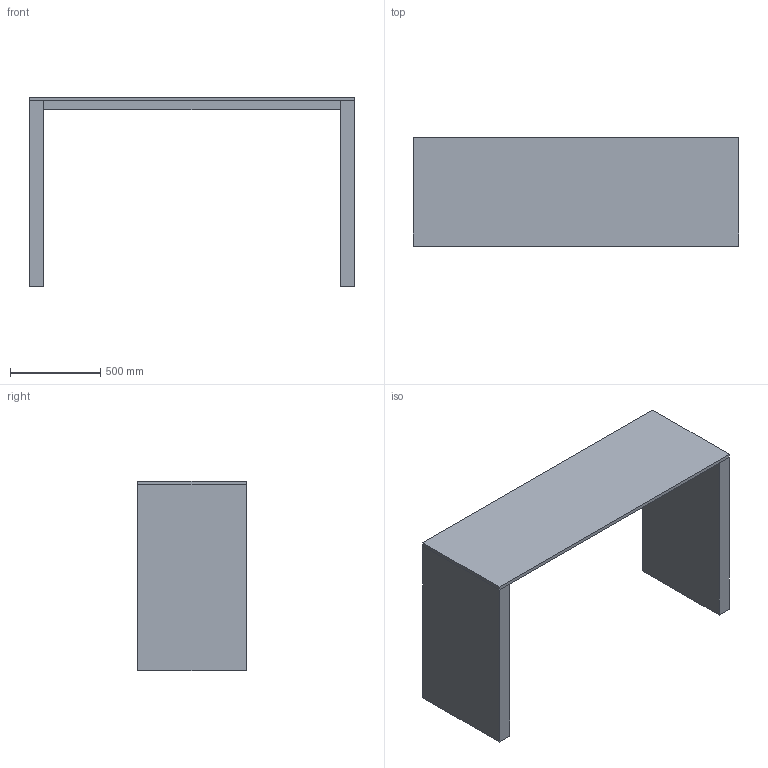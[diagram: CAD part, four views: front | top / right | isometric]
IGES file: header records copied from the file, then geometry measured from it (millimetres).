
Start section: Comment
Global section: file name: Stehtisch - 1800 x 600.igs; native system:  By UGS Corp.; preprocessor: XPlus GENERIC/IGES 3.0; author: Author; organization: Title; date: 20200107.150250; units: inch
Bounding box: 1800 x 600 x 1050 mm (x, y, z)
Surface area: 6059084.1 mm2 (no closed solid volume)
Topology: 0 solids, 0 shells, 20 faces, 96 edges, 96 vertices
Faces by surface type: bspline 20
